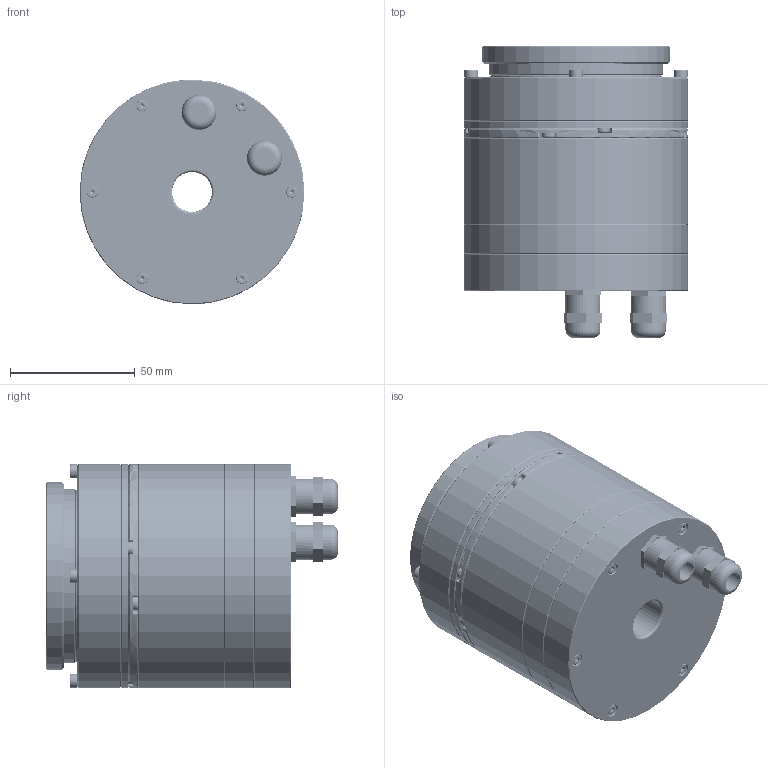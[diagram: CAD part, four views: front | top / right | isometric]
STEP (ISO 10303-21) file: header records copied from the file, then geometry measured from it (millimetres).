
FILE_DESCRIPTION (( 'STEP AP214' ), '1' );
FILE_NAME ('CMH-20-080-NB-BA-01-S2壽誹耀郪.STEP', '2023-05-11T01:29:04', ( '' ), ( '' ), 'SwSTEP 2.0', 'SolidWorks 2020', '' );
FILE_SCHEMA (( 'AUTOMOTIVE_DESIGN' ));
Length unit declared in the file: millimetre
Products named in the file (52): 粣縐^LHG-20-XX-U-I(2); hexagon socket head cap screws gb_GB_FASTENER_SCREWS_HSHCS M2.5X8-N; 崨盄諶; CMH20-96-01-S1萇儂綴傷裔; Rolling bearings 61805 GB 276-94_Rolling bearings 61805 GB 276-94; CMH20-93-01-S2雄攫盓殤; M3x12^LHG-20-XX-U-I(2); CMH20-22-01-S1 ________^CMH20-20-01-S1 电机定子组件(2)_CMH20-20-01-S1 电机定子组件; CMH20-21-01-S1 ________^CMH20-20-01-S1 电机定子组件(2)_CMH20-20-01-S1 电机定子组件; 交叉轴承内圈^LHG-20-XX-U-I(2); MANIFOLD_SOLID_BREP_61511035^柔性轴承_LHG-20-XX-U-I(2); GB-T276_60000_2LS-1994,61806_2LS^LHG-20-XX-U-I(2); GB-T70.1-2000,M3x8^LHG-20-XX-U-I(2); 交叉轴承外圈^LHG-20-XX-U-I(2); MANIFOLD_SOLID_BREP_61771013^柔性轴承_LHG-20-XX-U-I(2); hexagon socket head cap screws gb_GB_FASTENER_SCREWS_HSHCS M2.5X25-N; CMH20-20-01-S1 ______ QZ-2 155 0.63^CMH20-20-01-S1 电机定子组件(2)_CMH20-20-01-S1 电机定子组件; CMH20-10-01-S2熬厒儂郪璃; CMH20-32-01-S1 ____N(S)__^CMH20-30-01-S1 电机转子组件(2)_CMH20-30-01-S1 电机转子组件; M12萇擢滅阨諉芛; LHG-20-XX-U-I(2); MANIFOLD_SOLID_BREP_61901001^柔性轴承_LHG-20-XX-U-I(2); 柔性轴承^LHG-20-XX-U-I(2); hexagon socket head cap screws gb_GB_FASTENER_SCREWS_HSHCS M3X30-C; MU200_1; MU37S 45-32N棠遠; CMH20-91-01-S1萇儂褲极; 詩謫^LHG-20-XX-U-I(2); CMH20-31-01-S1 ________^CMH20-30-01-S1 电机转子组件(2)_CMH20-30-01-S1 电机转子组件; M3x8^LHG-20-XX-U-I(2); 謂縐^LHG-20-XX-U-I(2); MANIFOLD_SOLID_BREP_61381046^柔性轴承_LHG-20-XX-U-I(2); 閉情芛M3x16^LHG-20-XX-U-I(2); CMH-20-080-NB-BA-01-S2壽誹耀郪; 6705 2RS^LHG-20-XX-U-I(2); 粣創揤啣^LHG-20-XX-U-I(2); CMH20-12-01-S1楷汜ん; GB-T819_1_H-2000,M2.5x5^LHG-20-XX-U-I(2); CMH20-23-01-S1 ____PCB______^CMH20-20-01-S1 电机定子组件(2)_CMH20-20-01-S1 电机定子组件; 柔轮^LHG-20-XX-U-I(2)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
Assembly tree (56 placements, depth 5):
  粣縐^LHG-20-XX-U-I(2)
  Rolling bearings 61805 GB 276-94_Rolling bearings 61805 GB 276-94
  CMH20-22-01-S1 ________^CMH20-20-01-S1 电机定子组件(2)_CMH20-20-01-S1 电机定子组件
  CMH20-21-01-S1 ________^CMH20-20-01-S1 电机定子组件(2)_CMH20-20-01-S1 电机定子组件
  MANIFOLD_SOLID_BREP_61511035^柔性轴承_LHG-20-XX-U-I(2)
Bounding box: 90 x 117 x 90 mm (x, y, z)
Volume: 229086.2 mm3; surface area: 154695.1 mm2
Topology: 69 solids, 1847 shells, 6394 faces, 16494 edges, 11550 vertices
Faces by surface type: plane 1832, cylinder 1726, bspline 1600, cone 714, sphere 398, torus 124
Entity records: 275738 total; most frequent: CARTESIAN_POINT 151504, ORIENTED_EDGE 24574, DIRECTION 15329, EDGE_CURVE 15030, VERTEX_POINT 10955, B_SPLINE_CURVE_WITH_KNOTS 10849, AXIS2_PLACEMENT_3D 6752, EDGE_LOOP 6501
